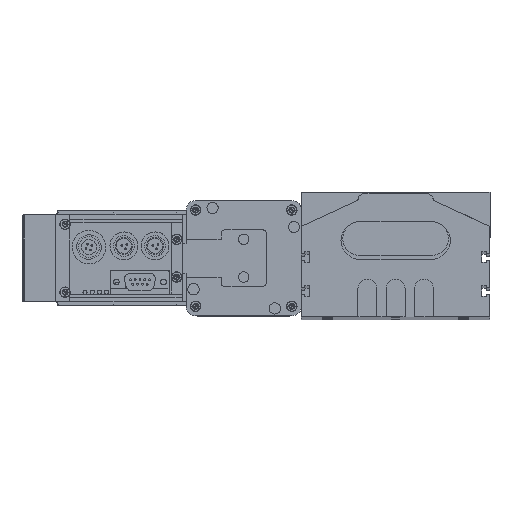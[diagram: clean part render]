
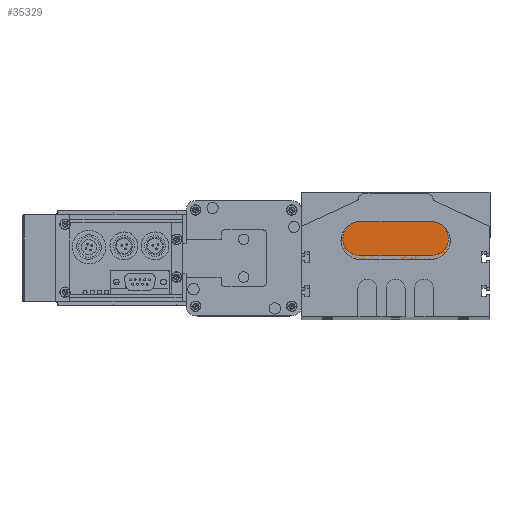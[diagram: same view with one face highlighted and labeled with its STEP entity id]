
A CAD part, top view. The second image highlights one B-rep face of the part: STEP entity #35329.
In plain terms, the highlighted planar face has unit normal (0, 0, 1).
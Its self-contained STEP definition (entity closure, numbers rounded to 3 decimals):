
#21343 = CARTESIAN_POINT ( 'NONE',  ( -10., 10., 10. ) ) ;
#21578 = DIRECTION ( 'NONE',  ( 1., 0., 0. ) ) ;
#21579 = AXIS2_PLACEMENT_3D ( 'NONE', #21583, #21591, #21578 ) ;
#21583 = CARTESIAN_POINT ( 'NONE',  ( 0., 10., 10. ) ) ;
#21591 = DIRECTION ( 'NONE',  ( 0., 0., 1. ) ) ;
#21593 = CIRCLE ( 'NONE', #21579, 10. ) ;
#21814 = CARTESIAN_POINT ( 'NONE',  ( 0., 0., 10. ) ) ;
#22098 = CARTESIAN_POINT ( 'NONE',  ( 0., 10., 10. ) ) ;
#22099 = AXIS2_PLACEMENT_3D ( 'NONE', #22098, #22171, #22170 ) ;
#22106 = CARTESIAN_POINT ( 'NONE',  ( 0., 20., 10. ) ) ;
#22110 = DIRECTION ( 'NONE',  ( -1., 0., 0. ) ) ;
#22111 = DIRECTION ( 'NONE',  ( 0., 0., 1. ) ) ;
#22112 = AXIS2_PLACEMENT_3D ( 'NONE', #22120, #22111, #22110 ) ;
#22114 = CIRCLE ( 'NONE', #22099, 10. ) ;
#22120 = CARTESIAN_POINT ( 'NONE',  ( 38., 10., 10. ) ) ;
#22122 = CIRCLE ( 'NONE', #22112, 10. ) ;
#22170 = DIRECTION ( 'NONE',  ( 1., 0., 0. ) ) ;
#22171 = DIRECTION ( 'NONE',  ( 0., 0., 1. ) ) ;
#22281 = DIRECTION ( 'NONE',  ( 1., 0., 0. ) ) ;
#22282 = VECTOR ( 'NONE', #22281, 1000. ) ;
#22283 = CARTESIAN_POINT ( 'NONE',  ( 38., 20., 10. ) ) ;
#22299 = CARTESIAN_POINT ( 'NONE',  ( 0., 0., 10. ) ) ;
#22300 = LINE ( 'NONE', #22299, #22282 ) ;
#22902 = CARTESIAN_POINT ( 'NONE',  ( 38., 0., 10. ) ) ;
#25832 = DIRECTION ( 'NONE',  ( -1., 0., 0. ) ) ;
#25833 = VECTOR ( 'NONE', #25832, 1000. ) ;
#25834 = CARTESIAN_POINT ( 'NONE',  ( 0., 20., 10. ) ) ;
#25835 = LINE ( 'NONE', #25834, #25833 ) ;
#25852 = DIRECTION ( 'NONE',  ( 1., 0., 0. ) ) ;
#25853 = DIRECTION ( 'NONE',  ( 0., 0., 1. ) ) ;
#25854 = CARTESIAN_POINT ( 'NONE',  ( 0., 10., 10. ) ) ;
#25870 = FACE_OUTER_BOUND ( 'NONE', #33534, .T. ) ;
#25871 = AXIS2_PLACEMENT_3D ( 'NONE', #25854, #25853, #25852 ) ;
#25872 = PLANE ( 'NONE',  #25871 ) ;
#33196 = EDGE_CURVE ( 'NONE', #33227, #33306, #21593, .T. ) ;
#33227 = VERTEX_POINT ( 'NONE', #21343 ) ;
#33306 = VERTEX_POINT ( 'NONE', #21814 ) ;
#33455 = EDGE_CURVE ( 'NONE', #33865, #33531, #22122, .T. ) ;
#33461 = VERTEX_POINT ( 'NONE', #22106 ) ;
#33463 = EDGE_CURVE ( 'NONE', #33461, #33227, #22114, .T. ) ;
#33529 = EDGE_CURVE ( 'NONE', #33306, #33865, #22300, .T. ) ;
#33531 = VERTEX_POINT ( 'NONE', #22283 ) ;
#33534 = EDGE_LOOP ( 'NONE', ( #35294, #35262, #35344, #35304, #35346 ) ) ;
#33865 = VERTEX_POINT ( 'NONE', #22902 ) ;
#35262 = ORIENTED_EDGE ( 'NONE', *, *, #33196, .T. ) ;
#35294 = ORIENTED_EDGE ( 'NONE', *, *, #33463, .T. ) ;
#35304 = ORIENTED_EDGE ( 'NONE', *, *, #33455, .T. ) ;
#35309 = EDGE_CURVE ( 'NONE', #33531, #33461, #25835, .T. ) ;
#35329 = ADVANCED_FACE ( 'NONE', ( #25870 ), #25872, .T. ) ;
#35344 = ORIENTED_EDGE ( 'NONE', *, *, #33529, .T. ) ;
#35346 = ORIENTED_EDGE ( 'NONE', *, *, #35309, .T. ) ;
